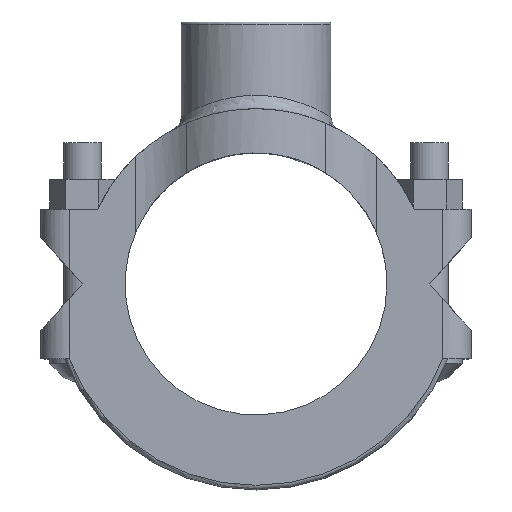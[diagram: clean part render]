
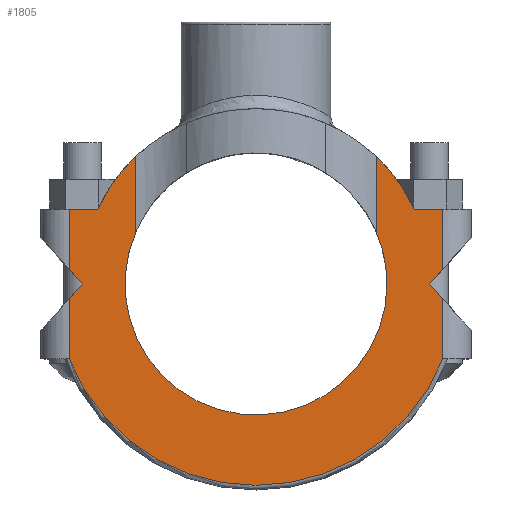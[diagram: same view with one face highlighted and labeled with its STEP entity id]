
A CAD part, top view. The second image highlights one B-rep face of the part: STEP entity #1805.
In plain terms, the highlighted planar face has unit normal (0, 0, 1).
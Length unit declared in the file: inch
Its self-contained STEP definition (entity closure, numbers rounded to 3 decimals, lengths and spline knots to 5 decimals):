
#154=FACE_OUTER_BOUND('',#242,.T.);
#242=EDGE_LOOP('',(#1166,#1167,#1168,#1169,#1170,#1171,#1172,#1173,#1174,
#1175,#1176,#1177,#1178,#1179,#1180,#1181,#1182,#1183,#1184));
#347=CIRCLE('',#1918,2.69);
#349=CIRCLE('',#1921,2.34);
#350=CIRCLE('',#1922,1.75);
#351=CIRCLE('',#1923,1.75);
#352=CIRCLE('',#1924,2.34);
#431=LINE('',#2699,#571);
#432=LINE('',#2701,#572);
#433=LINE('',#2703,#573);
#434=LINE('',#2705,#574);
#435=LINE('',#2707,#575);
#436=LINE('',#2709,#576);
#437=LINE('',#2713,#577);
#438=LINE('',#2719,#578);
#439=LINE('',#2723,#579);
#440=LINE('',#2725,#580);
#441=LINE('',#2727,#581);
#442=LINE('',#2729,#582);
#443=LINE('',#2731,#583);
#444=LINE('',#2732,#584);
#571=VECTOR('',#2136,0.3937);
#572=VECTOR('',#2137,0.3937);
#573=VECTOR('',#2138,0.3937);
#574=VECTOR('',#2139,0.3937);
#575=VECTOR('',#2140,0.3937);
#576=VECTOR('',#2141,0.3937);
#577=VECTOR('',#2144,0.3937);
#578=VECTOR('',#2149,0.3937);
#579=VECTOR('',#2152,0.3937);
#580=VECTOR('',#2153,0.3937);
#581=VECTOR('',#2154,0.3937);
#582=VECTOR('',#2155,0.3937);
#583=VECTOR('',#2156,0.3937);
#584=VECTOR('',#2157,0.3937);
#717=VERTEX_POINT('',#2662);
#718=VERTEX_POINT('',#2667);
#722=VERTEX_POINT('',#2698);
#723=VERTEX_POINT('',#2700);
#724=VERTEX_POINT('',#2702);
#725=VERTEX_POINT('',#2704);
#726=VERTEX_POINT('',#2706);
#727=VERTEX_POINT('',#2708);
#728=VERTEX_POINT('',#2710);
#729=VERTEX_POINT('',#2712);
#730=VERTEX_POINT('',#2714);
#731=VERTEX_POINT('',#2716);
#732=VERTEX_POINT('',#2718);
#733=VERTEX_POINT('',#2720);
#734=VERTEX_POINT('',#2722);
#735=VERTEX_POINT('',#2724);
#736=VERTEX_POINT('',#2726);
#737=VERTEX_POINT('',#2728);
#738=VERTEX_POINT('',#2730);
#897=EDGE_CURVE('',#718,#717,#347,.T.);
#902=EDGE_CURVE('',#717,#722,#431,.T.);
#903=EDGE_CURVE('',#722,#723,#432,.T.);
#904=EDGE_CURVE('',#723,#724,#433,.T.);
#905=EDGE_CURVE('',#724,#725,#434,.T.);
#906=EDGE_CURVE('',#725,#726,#435,.T.);
#907=EDGE_CURVE('',#726,#727,#436,.T.);
#908=EDGE_CURVE('',#727,#728,#349,.T.);
#909=EDGE_CURVE('',#729,#728,#437,.T.);
#910=EDGE_CURVE('',#729,#730,#350,.T.);
#911=EDGE_CURVE('',#730,#731,#351,.T.);
#912=EDGE_CURVE('',#731,#732,#438,.T.);
#913=EDGE_CURVE('',#732,#733,#352,.T.);
#914=EDGE_CURVE('',#733,#734,#439,.T.);
#915=EDGE_CURVE('',#735,#734,#440,.T.);
#916=EDGE_CURVE('',#735,#736,#441,.T.);
#917=EDGE_CURVE('',#736,#737,#442,.T.);
#918=EDGE_CURVE('',#738,#737,#443,.T.);
#919=EDGE_CURVE('',#738,#718,#444,.T.);
#1166=ORIENTED_EDGE('',*,*,#902,.T.);
#1167=ORIENTED_EDGE('',*,*,#903,.T.);
#1168=ORIENTED_EDGE('',*,*,#904,.T.);
#1169=ORIENTED_EDGE('',*,*,#905,.T.);
#1170=ORIENTED_EDGE('',*,*,#906,.T.);
#1171=ORIENTED_EDGE('',*,*,#907,.T.);
#1172=ORIENTED_EDGE('',*,*,#908,.T.);
#1173=ORIENTED_EDGE('',*,*,#909,.F.);
#1174=ORIENTED_EDGE('',*,*,#910,.T.);
#1175=ORIENTED_EDGE('',*,*,#911,.T.);
#1176=ORIENTED_EDGE('',*,*,#912,.T.);
#1177=ORIENTED_EDGE('',*,*,#913,.T.);
#1178=ORIENTED_EDGE('',*,*,#914,.T.);
#1179=ORIENTED_EDGE('',*,*,#915,.F.);
#1180=ORIENTED_EDGE('',*,*,#916,.T.);
#1181=ORIENTED_EDGE('',*,*,#917,.T.);
#1182=ORIENTED_EDGE('',*,*,#918,.F.);
#1183=ORIENTED_EDGE('',*,*,#919,.T.);
#1184=ORIENTED_EDGE('',*,*,#897,.T.);
#1670=PLANE('',#1920);
#1805=ADVANCED_FACE('',(#154),#1670,.T.);
#1918=AXIS2_PLACEMENT_3D('',#2668,#2130,#2131);
#1920=AXIS2_PLACEMENT_3D('',#2697,#2134,#2135);
#1921=AXIS2_PLACEMENT_3D('',#2711,#2142,#2143);
#1922=AXIS2_PLACEMENT_3D('',#2715,#2145,#2146);
#1923=AXIS2_PLACEMENT_3D('',#2717,#2147,#2148);
#1924=AXIS2_PLACEMENT_3D('',#2721,#2150,#2151);
#2130=DIRECTION('center_axis',(0.,0.,1.));
#2131=DIRECTION('ref_axis',(-1.,0.,0.));
#2134=DIRECTION('center_axis',(0.,0.,1.));
#2135=DIRECTION('ref_axis',(1.,0.,0.));
#2136=DIRECTION('',(-1.,0.,0.));
#2137=DIRECTION('',(0.,1.,0.));
#2138=DIRECTION('',(-0.667,0.745,0.));
#2139=DIRECTION('',(0.667,0.745,0.));
#2140=DIRECTION('',(0.,1.,0.));
#2141=DIRECTION('',(-1.,0.,0.));
#2142=DIRECTION('center_axis',(0.,0.,1.));
#2143=DIRECTION('ref_axis',(-0.904,-0.427,0.));
#2144=DIRECTION('',(0.,1.,0.));
#2145=DIRECTION('center_axis',(0.,0.,-1.));
#2146=DIRECTION('ref_axis',(-1.,0.,0.));
#2147=DIRECTION('center_axis',(0.,0.,-1.));
#2148=DIRECTION('ref_axis',(-1.,0.,0.));
#2149=DIRECTION('',(0.,1.,0.));
#2150=DIRECTION('center_axis',(0.,0.,1.));
#2151=DIRECTION('ref_axis',(-0.904,-0.427,0.));
#2152=DIRECTION('',(-1.,0.,0.));
#2153=DIRECTION('',(0.,1.,0.));
#2154=DIRECTION('',(0.667,-0.745,0.));
#2155=DIRECTION('',(-0.667,-0.745,0.));
#2156=DIRECTION('',(0.,1.,0.));
#2157=DIRECTION('',(-1.,0.,0.));
#2662=CARTESIAN_POINT('',(2.49722,-1.,0.75));
#2667=CARTESIAN_POINT('',(-2.49722,-1.,0.75));
#2668=CARTESIAN_POINT('Origin',(0.,0.,
0.75));
#2697=CARTESIAN_POINT('Origin',(1.60565,0.,0.75));
#2698=CARTESIAN_POINT('',(2.495,-1.,0.75));
#2699=CARTESIAN_POINT('',(2.14533,-1.,0.75));
#2700=CARTESIAN_POINT('',(2.495,-0.1955,0.75));
#2701=CARTESIAN_POINT('',(2.495,0.,0.75));
#2702=CARTESIAN_POINT('',(2.32,0.,0.75));
#2703=CARTESIAN_POINT('',(2.16111,0.1775,0.75));
#2704=CARTESIAN_POINT('',(2.495,0.1955,0.75));
#2705=CARTESIAN_POINT('',(2.43861,0.1325,0.75));
#2706=CARTESIAN_POINT('',(2.495,1.,0.75));
#2707=CARTESIAN_POINT('',(2.495,0.,0.75));
#2708=CARTESIAN_POINT('',(2.11556,1.,0.75));
#2709=CARTESIAN_POINT('',(1.86061,1.,0.75));
#2710=CARTESIAN_POINT('',(1.60565,1.7022,0.75));
#2711=CARTESIAN_POINT('Origin',(0.,0.,0.75));
#2712=CARTESIAN_POINT('',(1.60565,0.69597,0.75));
#2713=CARTESIAN_POINT('',(1.60565,0.,0.75));
#2714=CARTESIAN_POINT('',(1.75,0.,0.75));
#2715=CARTESIAN_POINT('Origin',(0.,0.,0.75));
#2716=CARTESIAN_POINT('',(-1.60565,0.69597,0.75));
#2717=CARTESIAN_POINT('Origin',(0.,0.,0.75));
#2718=CARTESIAN_POINT('',(-1.60565,1.7022,0.75));
#2719=CARTESIAN_POINT('',(-1.60565,0.,0.75));
#2720=CARTESIAN_POINT('',(-2.11556,1.,0.75));
#2721=CARTESIAN_POINT('Origin',(0.,0.,0.75));
#2722=CARTESIAN_POINT('',(-2.495,1.,0.75));
#2723=CARTESIAN_POINT('',(-2.685,1.,0.75));
#2724=CARTESIAN_POINT('',(-2.495,0.1955,0.75));
#2725=CARTESIAN_POINT('',(-2.495,0.,0.75));
#2726=CARTESIAN_POINT('',(-2.32,0.,0.75));
#2727=CARTESIAN_POINT('',(-2.35892,0.04348,0.75));
#2728=CARTESIAN_POINT('',(-2.495,-0.1955,0.75));
#2729=CARTESIAN_POINT('',(-1.72434,0.66543,0.75));
#2730=CARTESIAN_POINT('',(-2.495,-1.,0.75));
#2731=CARTESIAN_POINT('',(-2.495,0.,0.75));
#2732=CARTESIAN_POINT('',(-0.53967,-1.,0.75));
